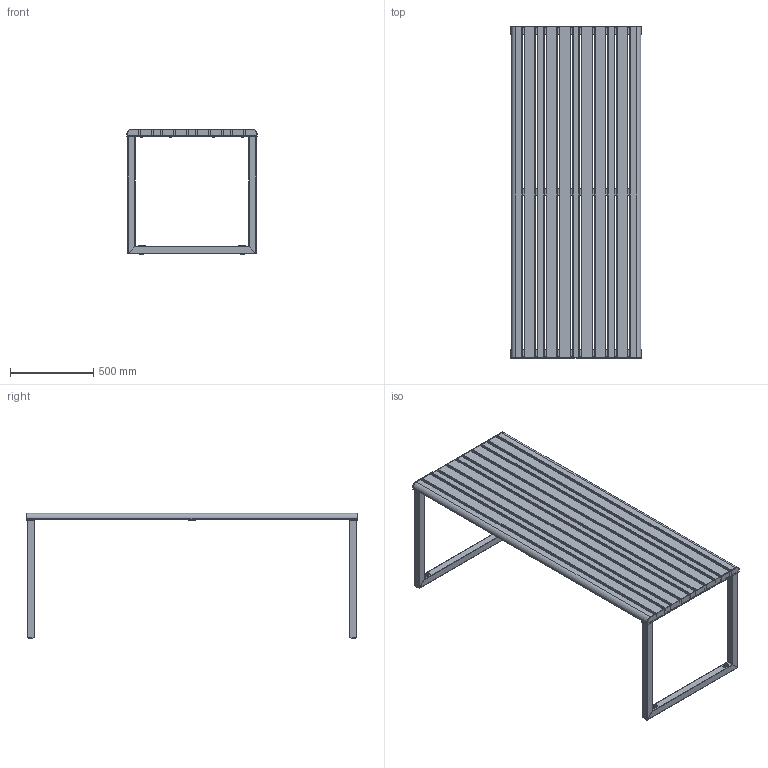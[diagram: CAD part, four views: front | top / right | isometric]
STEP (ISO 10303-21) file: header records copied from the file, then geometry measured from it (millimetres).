
FILE_DESCRIPTION(('STEP AP203'),'1');
FILE_NAME('UT24TVFXX4XAXX.stp','2023-06-15T11:51:30',(' '),(' '),'Spatial InterOp 3D',' ',' ');
FILE_SCHEMA(('CONFIG_CONTROL_DESIGN'));
Length unit declared in the file: millimetre
Products named in the file (1): UT24TVFXX4XAXX
Bounding box: 783 x 1998 x 756 mm (x, y, z)
Surface area: 5843090.4 mm2 (no closed solid volume)
Topology: 0 solids, 70 shells, 468 faces, 2214 edges, 1772 vertices
Faces by surface type: plane 283, cylinder 137, cone 26, bspline 14, sphere 4, torus 4
Full cylindrical faces by diameter (mm): 6 x4, 6.75 x6, 8 x8, 10 x4, 11.3 x2, 20 x4, 24 x4
Entity records: 23655 total; most frequent: CARTESIAN_POINT 6604, DIRECTION 3441, ORIENTED_EDGE 2716, EDGE_CURVE 2126, VERTEX_POINT 1747, LINE 1293, VECTOR 1293, AXIS2_PLACEMENT_3D 1074
